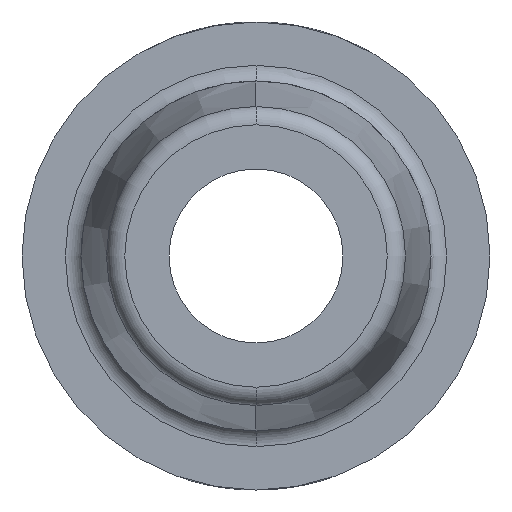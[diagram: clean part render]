
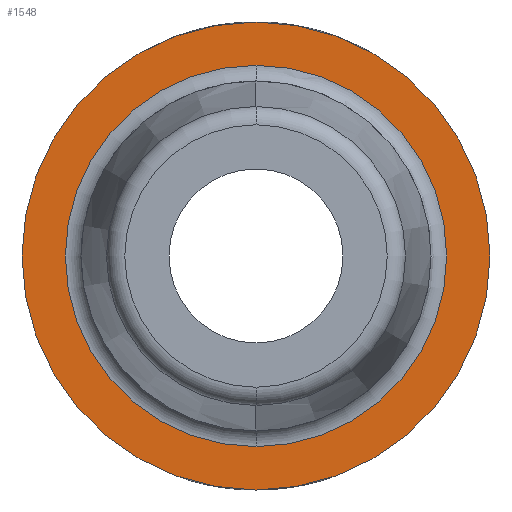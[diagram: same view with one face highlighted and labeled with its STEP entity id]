
A CAD part, left-side view. The second image highlights one B-rep face of the part: STEP entity #1548.
In plain terms, the highlighted planar face has unit normal (-1, 0, 0).
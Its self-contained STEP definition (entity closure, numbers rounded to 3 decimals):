
#323=FACE_BOUND('',#458,.T.);
#335=PLANE('',#1666);
#367=FACE_OUTER_BOUND('',#457,.T.);
#457=EDGE_LOOP('',(#1060,#1061));
#458=EDGE_LOOP('',(#1062,#1063));
#558=CIRCLE('',#1661,2.587);
#563=CIRCLE('',#1667,3.175);
#564=CIRCLE('',#1668,3.175);
#565=CIRCLE('',#1669,2.587);
#641=VERTEX_POINT('',#2199);
#642=VERTEX_POINT('',#2200);
#646=VERTEX_POINT('',#2210);
#647=VERTEX_POINT('',#2211);
#809=EDGE_CURVE('',#641,#642,#558,.T.);
#814=EDGE_CURVE('',#646,#647,#563,.T.);
#815=EDGE_CURVE('',#647,#646,#564,.T.);
#816=EDGE_CURVE('',#642,#641,#565,.T.);
#1060=ORIENTED_EDGE('',*,*,#814,.T.);
#1061=ORIENTED_EDGE('',*,*,#815,.T.);
#1062=ORIENTED_EDGE('',*,*,#816,.T.);
#1063=ORIENTED_EDGE('',*,*,#809,.T.);
#1548=ADVANCED_FACE('',(#367,#323),#335,.F.);
#1661=AXIS2_PLACEMENT_3D('',#2201,#1811,#1812);
#1666=AXIS2_PLACEMENT_3D('',#2209,#1821,#1822);
#1667=AXIS2_PLACEMENT_3D('',#2212,#1823,#1824);
#1668=AXIS2_PLACEMENT_3D('',#2213,#1825,#1826);
#1669=AXIS2_PLACEMENT_3D('',#2214,#1827,#1828);
#1811=DIRECTION('center_axis',(1.,0.,0.));
#1812=DIRECTION('ref_axis',(0.,0.,
1.));
#1821=DIRECTION('center_axis',(1.,0.,0.));
#1822=DIRECTION('ref_axis',(0.,0.,-1.));
#1823=DIRECTION('center_axis',(-1.,0.,0.));
#1824=DIRECTION('ref_axis',(0.,0.,1.));
#1825=DIRECTION('center_axis',(-1.,0.,0.));
#1826=DIRECTION('ref_axis',(0.,0.,
-1.));
#1827=DIRECTION('center_axis',(1.,0.,0.));
#1828=DIRECTION('ref_axis',(0.,0.,-1.));
#2199=CARTESIAN_POINT('',(-12.25,0.,2.587));
#2200=CARTESIAN_POINT('',(-12.25,0.,-2.587));
#2201=CARTESIAN_POINT('Origin',(-12.25,0.,0.));
#2209=CARTESIAN_POINT('Origin',(-12.25,-3.213,0.));
#2210=CARTESIAN_POINT('',(-12.25,0.,3.175));
#2211=CARTESIAN_POINT('',(-12.25,0.,-3.175));
#2212=CARTESIAN_POINT('Origin',(-12.25,0.,0.));
#2213=CARTESIAN_POINT('Origin',(-12.25,0.,0.));
#2214=CARTESIAN_POINT('Origin',(-12.25,0.,0.));
